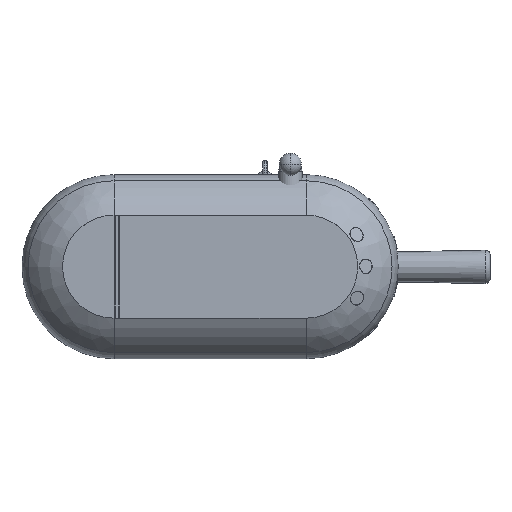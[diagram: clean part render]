
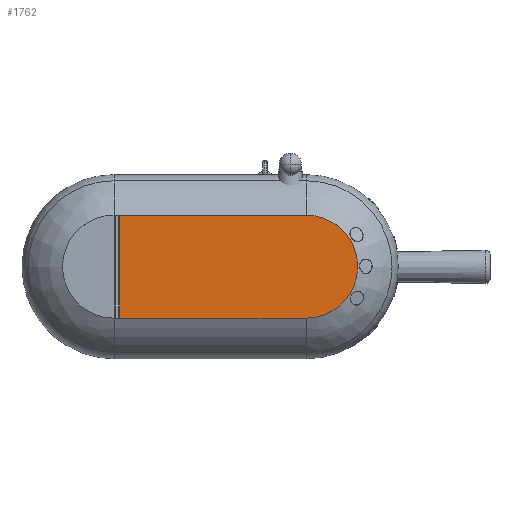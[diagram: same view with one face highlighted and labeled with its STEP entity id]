
A CAD part, top view. The second image highlights one B-rep face of the part: STEP entity #1762.
In plain terms, the highlighted planar face has unit normal (0, 0, 1).
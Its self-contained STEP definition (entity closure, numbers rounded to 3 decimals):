
#312=LINE('',#10325,#623);
#316=LINE('',#10337,#627);
#319=LINE('',#10342,#630);
#623=VECTOR('',#7254,1.);
#627=VECTOR('',#7266,1.);
#630=VECTOR('',#7271,1.);
#1064=PLANE('',#5993);
#1762=ADVANCED_FACE('',(#2101),#1064,.F.);
#2101=FACE_OUTER_BOUND('',#2472,.T.);
#2472=EDGE_LOOP('',(#3744,#3745,#3746,#3747));
#3744=ORIENTED_EDGE('',*,*,#5133,.F.);
#3745=ORIENTED_EDGE('',*,*,#5142,.F.);
#3746=ORIENTED_EDGE('',*,*,#5139,.F.);
#3747=ORIENTED_EDGE('',*,*,#5136,.F.);
#4441=VERTEX_POINT('',#10324);
#4442=VERTEX_POINT('',#10326);
#4444=VERTEX_POINT('',#10332);
#4446=VERTEX_POINT('',#10338);
#5133=EDGE_CURVE('',#4441,#4442,#312,.T.);
#5136=EDGE_CURVE('',#4442,#4444,#5485,.T.);
#5139=EDGE_CURVE('',#4444,#4446,#316,.T.);
#5142=EDGE_CURVE('',#4446,#4441,#319,.T.);
#5485=CIRCLE('',#5989,46.35);
#5989=AXIS2_PLACEMENT_3D('',#10331,#7260,#7261);
#5993=AXIS2_PLACEMENT_3D('',#10344,#7274,#7275);
#7254=DIRECTION('',(1.,0.,0.));
#7260=DIRECTION('',(0.,0.,-1.));
#7261=DIRECTION('',(1.,0.,0.));
#7266=DIRECTION('',(-1.,0.,0.));
#7271=DIRECTION('',(0.,1.,0.));
#7274=DIRECTION('',(0.,0.,-1.));
#7275=DIRECTION('',(-1.,0.,0.));
#10324=CARTESIAN_POINT('',(-85.5,46.35,296.2));
#10325=CARTESIAN_POINT('',(-85.5,46.35,296.2));
#10326=CARTESIAN_POINT('',(82.5,46.35,296.2));
#10331=CARTESIAN_POINT('',(82.5,0.,296.2));
#10332=CARTESIAN_POINT('',(82.5,-46.35,296.2));
#10337=CARTESIAN_POINT('',(82.5,-46.35,296.2));
#10338=CARTESIAN_POINT('',(-85.5,-46.35,296.2));
#10342=CARTESIAN_POINT('',(-85.5,-46.35,296.2));
#10344=CARTESIAN_POINT('',(82.5,0.,296.2));
